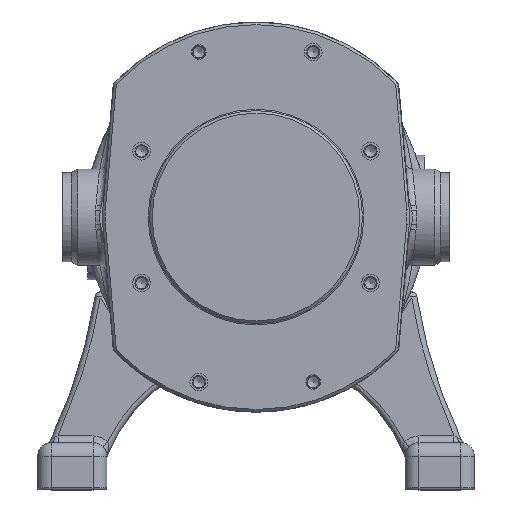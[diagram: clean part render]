
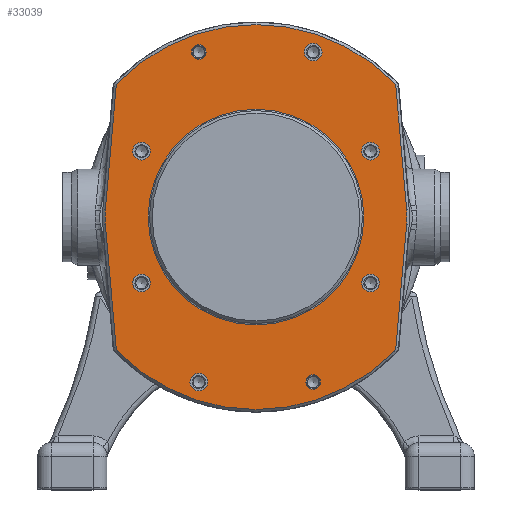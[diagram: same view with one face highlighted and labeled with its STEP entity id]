
A CAD part, top view. The second image highlights one B-rep face of the part: STEP entity #33039.
In plain terms, the highlighted planar face has unit normal (0, 0, 1) as drawn and (-1, 0, 0) by its records, which use the part's own axes.
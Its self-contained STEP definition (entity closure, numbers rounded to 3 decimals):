
#1233=FACE_BOUND('',#6010,.T.);
#1234=FACE_BOUND('',#6011,.T.);
#1235=FACE_BOUND('',#6012,.T.);
#1236=FACE_BOUND('',#6013,.T.);
#1237=FACE_BOUND('',#6014,.T.);
#1238=FACE_BOUND('',#6015,.T.);
#1239=FACE_BOUND('',#6016,.T.);
#1240=FACE_BOUND('',#6017,.T.);
#1241=FACE_BOUND('',#6018,.T.);
#2020=PLANE('',#36372);
#3891=FACE_OUTER_BOUND('',#6009,.T.);
#6009=EDGE_LOOP('',(#26404,#26405,#26406,#26407,#26408,#26409,#26410,#26411,
#26412,#26413,#26414,#26415));
#6010=EDGE_LOOP('',(#26416));
#6011=EDGE_LOOP('',(#26417));
#6012=EDGE_LOOP('',(#26418));
#6013=EDGE_LOOP('',(#26419));
#6014=EDGE_LOOP('',(#26420));
#6015=EDGE_LOOP('',(#26421));
#6016=EDGE_LOOP('',(#26422));
#6017=EDGE_LOOP('',(#26423));
#6018=EDGE_LOOP('',(#26424));
#8142=CIRCLE('',#36368,62.2);
#8145=CIRCLE('',#36373,111.);
#8146=CIRCLE('',#36374,3.5);
#8147=CIRCLE('',#36375,48.5);
#8148=CIRCLE('',#36376,3.5);
#8149=CIRCLE('',#36377,111.);
#8150=CIRCLE('',#36378,3.5);
#8151=CIRCLE('',#36379,48.5);
#8152=CIRCLE('',#36380,3.5);
#8153=CIRCLE('',#36381,5.1);
#8154=CIRCLE('',#36382,5.1);
#8155=CIRCLE('',#36383,5.1);
#8156=CIRCLE('',#36384,5.1);
#8157=CIRCLE('',#36385,5.1);
#8158=CIRCLE('',#36386,5.1);
#8159=CIRCLE('',#36387,4.188);
#8160=CIRCLE('',#36388,4.188);
#10156=LINE('',#56670,#11899);
#10157=LINE('',#56674,#11900);
#10158=LINE('',#56682,#11901);
#10159=LINE('',#56686,#11902);
#11899=VECTOR('',#42992,10.);
#11900=VECTOR('',#42995,10.);
#11901=VECTOR('',#43002,10.);
#11902=VECTOR('',#43005,10.);
#15186=VERTEX_POINT('',#56655);
#15188=VERTEX_POINT('',#56664);
#15189=VERTEX_POINT('',#56665);
#15190=VERTEX_POINT('',#56667);
#15191=VERTEX_POINT('',#56669);
#15192=VERTEX_POINT('',#56671);
#15193=VERTEX_POINT('',#56673);
#15194=VERTEX_POINT('',#56675);
#15195=VERTEX_POINT('',#56677);
#15196=VERTEX_POINT('',#56679);
#15197=VERTEX_POINT('',#56681);
#15198=VERTEX_POINT('',#56683);
#15199=VERTEX_POINT('',#56685);
#15200=VERTEX_POINT('',#56688);
#15201=VERTEX_POINT('',#56690);
#15202=VERTEX_POINT('',#56692);
#15203=VERTEX_POINT('',#56694);
#15204=VERTEX_POINT('',#56696);
#15205=VERTEX_POINT('',#56698);
#15206=VERTEX_POINT('',#56700);
#15207=VERTEX_POINT('',#56702);
#19119=EDGE_CURVE('',#15186,#15186,#8142,.T.);
#19123=EDGE_CURVE('',#15188,#15189,#8145,.T.);
#19124=EDGE_CURVE('',#15190,#15188,#8146,.T.);
#19125=EDGE_CURVE('',#15191,#15190,#10156,.T.);
#19126=EDGE_CURVE('',#15192,#15191,#8147,.T.);
#19127=EDGE_CURVE('',#15193,#15192,#10157,.T.);
#19128=EDGE_CURVE('',#15194,#15193,#8148,.T.);
#19129=EDGE_CURVE('',#15195,#15194,#8149,.T.);
#19130=EDGE_CURVE('',#15196,#15195,#8150,.T.);
#19131=EDGE_CURVE('',#15197,#15196,#10158,.T.);
#19132=EDGE_CURVE('',#15198,#15197,#8151,.T.);
#19133=EDGE_CURVE('',#15199,#15198,#10159,.T.);
#19134=EDGE_CURVE('',#15189,#15199,#8152,.T.);
#19135=EDGE_CURVE('',#15200,#15200,#8153,.T.);
#19136=EDGE_CURVE('',#15201,#15201,#8154,.T.);
#19137=EDGE_CURVE('',#15202,#15202,#8155,.T.);
#19138=EDGE_CURVE('',#15203,#15203,#8156,.T.);
#19139=EDGE_CURVE('',#15204,#15204,#8157,.T.);
#19140=EDGE_CURVE('',#15205,#15205,#8158,.T.);
#19141=EDGE_CURVE('',#15206,#15206,#8159,.T.);
#19142=EDGE_CURVE('',#15207,#15207,#8160,.T.);
#26404=ORIENTED_EDGE('',*,*,#19123,.F.);
#26405=ORIENTED_EDGE('',*,*,#19124,.F.);
#26406=ORIENTED_EDGE('',*,*,#19125,.F.);
#26407=ORIENTED_EDGE('',*,*,#19126,.F.);
#26408=ORIENTED_EDGE('',*,*,#19127,.F.);
#26409=ORIENTED_EDGE('',*,*,#19128,.F.);
#26410=ORIENTED_EDGE('',*,*,#19129,.F.);
#26411=ORIENTED_EDGE('',*,*,#19130,.F.);
#26412=ORIENTED_EDGE('',*,*,#19131,.F.);
#26413=ORIENTED_EDGE('',*,*,#19132,.F.);
#26414=ORIENTED_EDGE('',*,*,#19133,.F.);
#26415=ORIENTED_EDGE('',*,*,#19134,.F.);
#26416=ORIENTED_EDGE('',*,*,#19135,.T.);
#26417=ORIENTED_EDGE('',*,*,#19136,.T.);
#26418=ORIENTED_EDGE('',*,*,#19137,.T.);
#26419=ORIENTED_EDGE('',*,*,#19138,.T.);
#26420=ORIENTED_EDGE('',*,*,#19139,.T.);
#26421=ORIENTED_EDGE('',*,*,#19140,.T.);
#26422=ORIENTED_EDGE('',*,*,#19141,.T.);
#26423=ORIENTED_EDGE('',*,*,#19142,.T.);
#26424=ORIENTED_EDGE('',*,*,#19119,.F.);
#33039=ADVANCED_FACE('',(#3891,#1233,#1234,#1235,#1236,#1237,#1238,#1239,
#1240,#1241),#2020,.F.);
#36368=AXIS2_PLACEMENT_3D('',#56657,#42977,#42978);
#36372=AXIS2_PLACEMENT_3D('',#56663,#42986,#42987);
#36373=AXIS2_PLACEMENT_3D('',#56666,#42988,#42989);
#36374=AXIS2_PLACEMENT_3D('',#56668,#42990,#42991);
#36375=AXIS2_PLACEMENT_3D('',#56672,#42993,#42994);
#36376=AXIS2_PLACEMENT_3D('',#56676,#42996,#42997);
#36377=AXIS2_PLACEMENT_3D('',#56678,#42998,#42999);
#36378=AXIS2_PLACEMENT_3D('',#56680,#43000,#43001);
#36379=AXIS2_PLACEMENT_3D('',#56684,#43003,#43004);
#36380=AXIS2_PLACEMENT_3D('',#56687,#43006,#43007);
#36381=AXIS2_PLACEMENT_3D('',#56689,#43008,#43009);
#36382=AXIS2_PLACEMENT_3D('',#56691,#43010,#43011);
#36383=AXIS2_PLACEMENT_3D('',#56693,#43012,#43013);
#36384=AXIS2_PLACEMENT_3D('',#56695,#43014,#43015);
#36385=AXIS2_PLACEMENT_3D('',#56697,#43016,#43017);
#36386=AXIS2_PLACEMENT_3D('',#56699,#43018,#43019);
#36387=AXIS2_PLACEMENT_3D('',#56701,#43020,#43021);
#36388=AXIS2_PLACEMENT_3D('',#56703,#43022,#43023);
#42977=DIRECTION('center_axis',(-1.,0.,0.));
#42978=DIRECTION('ref_axis',(0.,-1.,0.));
#42986=DIRECTION('center_axis',(1.,0.,0.));
#42987=DIRECTION('ref_axis',(0.,0.,-1.));
#42988=DIRECTION('center_axis',(1.,0.,0.));
#42989=DIRECTION('ref_axis',(0.,0.685,-0.729));
#42990=DIRECTION('center_axis',(1.,0.,0.));
#42991=DIRECTION('ref_axis',(0.,0.416,-0.91));
#42992=DIRECTION('',(0.,0.996,0.087));
#42993=DIRECTION('center_axis',(1.,0.,0.));
#42994=DIRECTION('ref_axis',(0.,0.,-1.));
#42995=DIRECTION('',(0.,0.996,-0.087));
#42996=DIRECTION('center_axis',(1.,0.,0.));
#42997=DIRECTION('ref_axis',(0.,-0.416,-0.91));
#42998=DIRECTION('center_axis',(1.,0.,0.));
#42999=DIRECTION('ref_axis',(0.,-0.685,0.729));
#43000=DIRECTION('center_axis',(1.,0.,0.));
#43001=DIRECTION('ref_axis',(0.,-0.416,0.91));
#43002=DIRECTION('',(0.,-0.996,-0.087));
#43003=DIRECTION('center_axis',(1.,0.,0.));
#43004=DIRECTION('ref_axis',(0.,0.,1.));
#43005=DIRECTION('',(0.,-0.996,0.087));
#43006=DIRECTION('center_axis',(1.,0.,0.));
#43007=DIRECTION('ref_axis',(0.,0.416,0.91));
#43008=DIRECTION('center_axis',(1.,0.,0.));
#43009=DIRECTION('ref_axis',(0.,1.,0.));
#43010=DIRECTION('center_axis',(1.,0.,0.));
#43011=DIRECTION('ref_axis',(0.,1.,0.));
#43012=DIRECTION('center_axis',(1.,0.,0.));
#43013=DIRECTION('ref_axis',(0.,1.,0.));
#43014=DIRECTION('center_axis',(1.,0.,0.));
#43015=DIRECTION('ref_axis',(0.,1.,0.));
#43016=DIRECTION('center_axis',(1.,0.,0.));
#43017=DIRECTION('ref_axis',(0.,1.,0.));
#43018=DIRECTION('center_axis',(1.,0.,0.));
#43019=DIRECTION('ref_axis',(0.,1.,0.));
#43020=DIRECTION('center_axis',(1.,0.,0.));
#43021=DIRECTION('ref_axis',(0.,1.,0.));
#43022=DIRECTION('center_axis',(1.,0.,0.));
#43023=DIRECTION('ref_axis',(0.,1.,0.));
#56655=CARTESIAN_POINT('',(0.,0.,62.2));
#56657=CARTESIAN_POINT('Origin',(0.,0.,0.));
#56663=CARTESIAN_POINT('Origin',(0.,0.,0.));
#56664=CARTESIAN_POINT('',(0.,77.275,-79.684));
#56665=CARTESIAN_POINT('',(0.,77.275,79.684));
#56666=CARTESIAN_POINT('Origin',(0.,0.,0.));
#56667=CARTESIAN_POINT('',(0.,75.143,-80.659));
#56668=CARTESIAN_POINT('Origin',(0.,74.838,-77.172));
#56669=CARTESIAN_POINT('',(0.,4.227,-86.863));
#56670=CARTESIAN_POINT('',(0.,3.722,-86.907));
#56671=CARTESIAN_POINT('',(0.,-4.227,-86.863));
#56672=CARTESIAN_POINT('Origin',(0.,0.,-38.547));
#56673=CARTESIAN_POINT('',(0.,-75.143,-80.659));
#56674=CARTESIAN_POINT('',(0.,-42.232,-83.538));
#56675=CARTESIAN_POINT('',(0.,-77.275,-79.684));
#56676=CARTESIAN_POINT('Origin',(0.,-74.838,-77.172));
#56677=CARTESIAN_POINT('',(0.,-77.275,79.684));
#56678=CARTESIAN_POINT('Origin',(0.,0.,0.));
#56679=CARTESIAN_POINT('',(0.,-75.143,80.659));
#56680=CARTESIAN_POINT('Origin',(0.,-74.838,77.172));
#56681=CARTESIAN_POINT('',(0.,-4.227,86.863));
#56682=CARTESIAN_POINT('',(0.,-3.722,86.907));
#56683=CARTESIAN_POINT('',(0.,4.227,86.863));
#56684=CARTESIAN_POINT('Origin',(0.,0.,38.547));
#56685=CARTESIAN_POINT('',(0.,75.143,80.659));
#56686=CARTESIAN_POINT('',(0.,42.232,83.538));
#56687=CARTESIAN_POINT('Origin',(0.,74.838,77.172));
#56688=CARTESIAN_POINT('',(0.,-43.1,66.));
#56689=CARTESIAN_POINT('Origin',(0.,-38.,66.));
#56690=CARTESIAN_POINT('',(0.,-43.1,-66.));
#56691=CARTESIAN_POINT('Origin',(0.,-38.,-66.));
#56692=CARTESIAN_POINT('',(0.,90.06,33.));
#56693=CARTESIAN_POINT('Origin',(0.,95.16,33.));
#56694=CARTESIAN_POINT('',(0.,32.9,-66.));
#56695=CARTESIAN_POINT('Origin',(0.,38.,-66.));
#56696=CARTESIAN_POINT('',(0.,-100.26,-33.));
#56697=CARTESIAN_POINT('Origin',(0.,-95.16,-33.));
#56698=CARTESIAN_POINT('',(0.,32.9,66.));
#56699=CARTESIAN_POINT('Origin',(0.,38.,66.));
#56700=CARTESIAN_POINT('',(0.,90.972,-33.));
#56701=CARTESIAN_POINT('Origin',(0.,95.16,-33.));
#56702=CARTESIAN_POINT('',(0.,-99.348,33.));
#56703=CARTESIAN_POINT('Origin',(0.,-95.16,33.));
